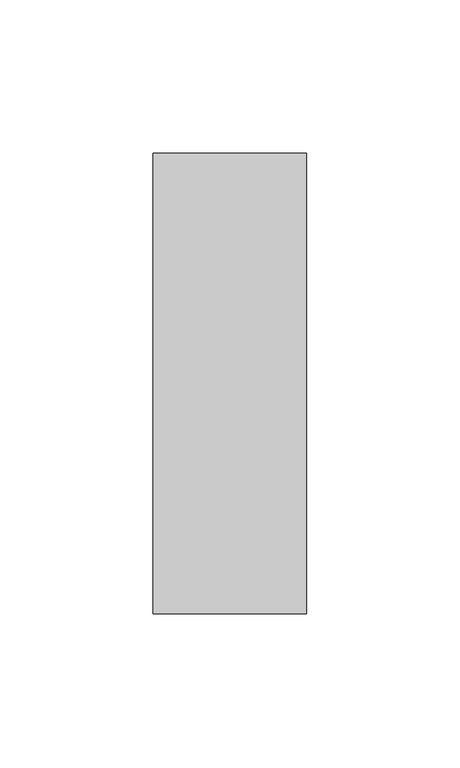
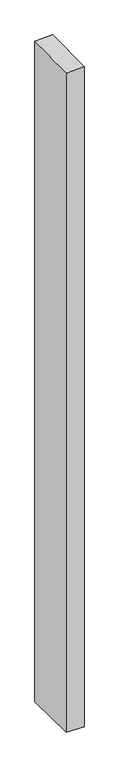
"""IFC4 building model written with IfcOpenShell, lengths in millimetres: member geometry, Прямоугольный импост : 50 x 150 мм."""

from ifc_helpers import new_model, si_unit, origin, place, context, project, spatial, faceted_brep, source, transform, mapped, element, save


def member_c8df0b4b(model_context):
    return source(origin(), model_context, "Body", "Brep", [
        faceted_brep([(-25.0, 75.0, 1.2977973), (25.0, 75.0, 2.0861192), (25.0, 75.0, -1943.1229713), (-25.0, 75.0, -1942.4170911), (-25.0, -75.0, -2.0861192), (-25.0, -75.0, -1941.1145087), (25.0, -75.0, -1.2977973), (25.0, -75.0, -1941.8203889)], [[[0, 1, 2, 3]], [[4, 0, 3, 5]], [[6, 4, 5, 7]], [[1, 6, 7, 2]], [[1, 0, 4, 6]], [[2, 7, 5, 3]]]),
    ])


if __name__ == "__main__":
    model = new_model("IFC4")
    model_context = context("Model", 3, world=origin())
    ifc_project = project(units=[si_unit("LENGTHUNIT", "METRE", prefix="MILLI")], contexts=[model_context])
    site = spatial("IfcSite", under=ifc_project)
    building = spatial("IfcBuilding", under=site)
    placement = place(None, origin())
    member_shape = member_c8df0b4b(model_context)
    element("IfcMember", 1, ObjectType="Прямоугольный импост : 50 x 150 мм", at=placement, inside=building, context=model_context, shape_type="MappedRepresentation", body=[
        mapped(member_shape, transform((0.0, 0.0, 0.0), x_axis=(1.0, 0.0, 0.0), y_axis=(0.0, 1.0, 0.0), z_axis=(0.0, 0.0, 1.0))),
    ])
    save(model, "model.ifc")
